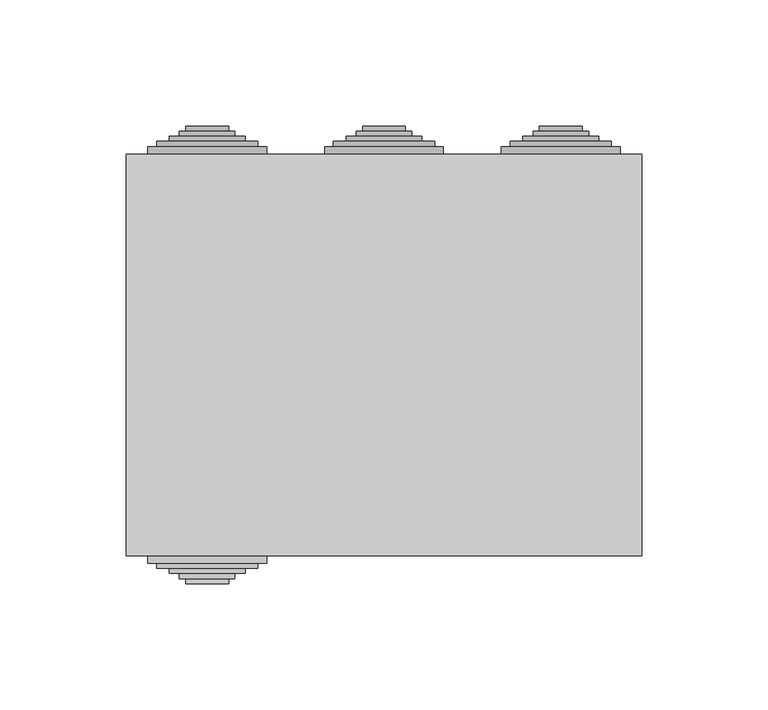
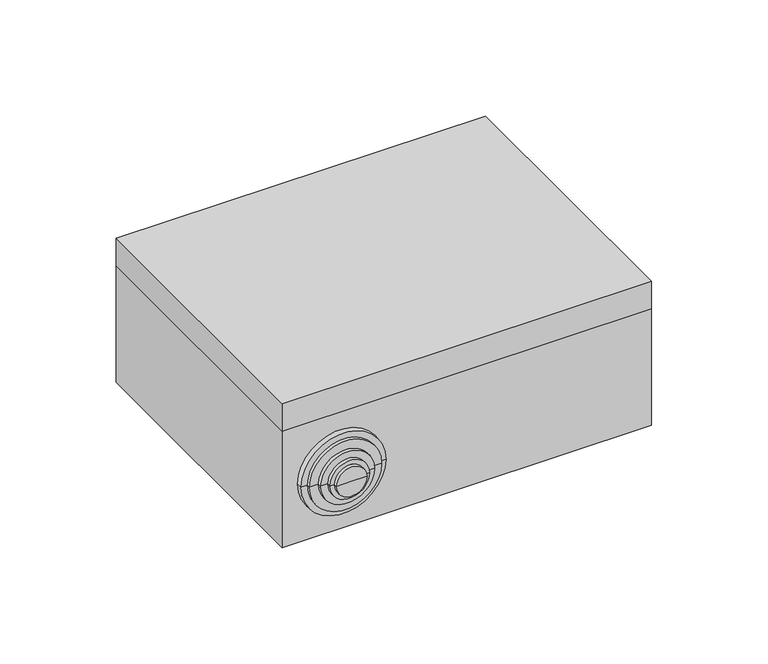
"""IFC4 building model written with IfcOpenShell, lengths in millimetres: cable carrier fitting geometry, КНС_КоробкаОтветвительнаяСКабельнымиВводами_10_IP55_DKC : с 10 кабельными вводами д.32мм, IP55, 190х140х70мм."""

from ifc_helpers import new_model, si_unit, frame, origin, place, context, project, spatial, polyline, circle_curve, faceted_brep, source, transform, mapped, element, save
from ifc_brep_helpers import plane_surface, cylinder_surface, revolved_surface, advanced_brep


def cable_carrier_fitting_7af15bab(model_context):
    return source(origin(), model_context, "Body", "SolidModel", [
        advanced_brep(
        [(-50.0, -77.5, 34.0), (-90.0, -77.5, 34.0), (-93.5, -77.5, 34.0), (-46.5, -77.5, 34.0), (-50.0, -79.5, 34.0), (-90.0, -79.5, 34.0), (-46.5, -79.5, 34.0), (-93.5, -79.5, 34.0), (-46.5, -82.5, 34.0), (-93.5, -82.5, 34.0), (-50.0, -82.5, 34.0), (-90.0, -82.5, 34.0), (-50.0, -84.5, 34.0), (-90.0, -84.5, 34.0), (-55.0, -84.5, 34.0), (-85.0, -84.5, 34.0), (-55.0, -86.5, 34.0), (-85.0, -86.5, 34.0), (-59.0, -86.5, 34.0), (-81.0, -86.5, 34.0), (-59.0, -88.5, 34.0), (-81.0, -88.5, 34.0), (-61.5, -88.5, 34.0), (-78.5, -88.5, 34.0), (-61.5, -90.5, 34.0), (-78.5, -90.5, 34.0), (-70.0, -90.5, 34.0), (-50.0, -70.5, 34.0), (-90.0, -70.5, 34.0), (-70.0, -70.5, 34.0), (-46.5, -75.2491137, 34.0), (-93.5, -75.2491137, 34.0)],
        [
            (0, 1, circle_curve(frame((-70.0, -77.5, 34.0), z_axis=(0.0, 1.0, 0.0), x_axis=(-1.0000000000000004, 0.0, 0.0)), 20.0)),
            (1, 2),
            (2, 3, circle_curve(frame((-70.0, -77.5, 34.0), z_axis=(0.0, -1.0, 0.0), x_axis=(-1.0000000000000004, 0.0, 0.0)), 23.5)),
            (3, 0),
            (1, 0, circle_curve(frame((-70.0, -77.5, 34.0), z_axis=(0.0, 1.0, 0.0), x_axis=(-1.0000000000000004, 0.0, 0.0)), 20.0)),
            (3, 2, circle_curve(frame((-70.0, -77.5, 34.0), z_axis=(0.0, -1.0, 0.0), x_axis=(-1.0000000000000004, 0.0, 0.0)), 23.5)),
            (4, 5, circle_curve(frame((-70.0, -79.5, 34.0), z_axis=(0.0, 1.0, 0.0), x_axis=(-1.0000000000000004, 0.0, 0.0)), 20.0)),
            (5, 1),
            (0, 4),
            (5, 4, circle_curve(frame((-70.0, -79.5, 34.0), z_axis=(0.0, 1.0, 0.0), x_axis=(-1.0000000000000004, 0.0, 0.0)), 20.0)),
            (6, 7, circle_curve(frame((-70.0, -79.5, 34.0), z_axis=(0.0, 1.0, 0.0), x_axis=(-1.0000000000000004, 0.0, 0.0)), 23.5)),
            (7, 5),
            (4, 6),
            (7, 6, circle_curve(frame((-70.0, -79.5, 34.0), z_axis=(0.0, 1.0, 0.0), x_axis=(-1.0000000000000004, 0.0, 0.0)), 23.5)),
            (8, 9, circle_curve(frame((-70.0, -82.5, 34.0), z_axis=(0.0, 1.0, 0.0), x_axis=(-1.0000000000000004, 0.0, 0.0)), 23.5)),
            (9, 7),
            (6, 8),
            (9, 8, circle_curve(frame((-70.0, -82.5, 34.0), z_axis=(0.0, 1.0, 0.0), x_axis=(-1.0000000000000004, 0.0, 0.0)), 23.5)),
            (10, 11, circle_curve(frame((-70.0, -82.5, 34.0), z_axis=(0.0, 1.0, 0.0), x_axis=(-1.0000000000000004, 0.0, 0.0)), 20.0)),
            (11, 9),
            (8, 10),
            (11, 10, circle_curve(frame((-70.0, -82.5, 34.0), z_axis=(0.0, 1.0, 0.0), x_axis=(-1.0000000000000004, 0.0, 0.0)), 20.0)),
            (12, 13, circle_curve(frame((-70.0, -84.5, 34.0), z_axis=(0.0, 1.0, 0.0), x_axis=(-1.0000000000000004, 0.0, 0.0)), 20.0)),
            (13, 11),
            (10, 12),
            (13, 12, circle_curve(frame((-70.0, -84.5, 34.0), z_axis=(0.0, 1.0, 0.0), x_axis=(-1.0000000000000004, 0.0, 0.0)), 20.0)),
            (14, 15, circle_curve(frame((-70.0, -84.5, 34.0), z_axis=(0.0, 1.0, 0.0), x_axis=(-1.0000000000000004, 0.0, 0.0)), 15.0)),
            (15, 13),
            (12, 14),
            (15, 14, circle_curve(frame((-70.0, -84.5, 34.0), z_axis=(0.0, 1.0, 0.0), x_axis=(-1.0000000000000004, 0.0, 0.0)), 15.0)),
            (16, 17, circle_curve(frame((-70.0, -86.5, 34.0), z_axis=(0.0, 1.0, 0.0), x_axis=(-1.0000000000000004, 0.0, 0.0)), 15.0)),
            (17, 15),
            (14, 16),
            (17, 16, circle_curve(frame((-70.0, -86.5, 34.0), z_axis=(0.0, 1.0, 0.0), x_axis=(-1.0000000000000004, 0.0, 0.0)), 15.0)),
            (18, 19, circle_curve(frame((-70.0, -86.5, 34.0), z_axis=(0.0, 1.0, 0.0), x_axis=(-1.0000000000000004, 0.0, 0.0)), 11.0)),
            (19, 17),
            (16, 18),
            (19, 18, circle_curve(frame((-70.0, -86.5, 34.0), z_axis=(0.0, 1.0, 0.0), x_axis=(-1.0000000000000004, 0.0, 0.0)), 11.0)),
            (20, 21, circle_curve(frame((-70.0, -88.5, 34.0), z_axis=(0.0, 1.0, 0.0), x_axis=(-1.0000000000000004, 0.0, 0.0)), 11.0)),
            (21, 19),
            (18, 20),
            (21, 20, circle_curve(frame((-70.0, -88.5, 34.0), z_axis=(0.0, 1.0, 0.0), x_axis=(-1.0000000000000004, 0.0, 0.0)), 11.0)),
            (22, 23, circle_curve(frame((-70.0, -88.5, 34.0), z_axis=(0.0, 1.0, 0.0), x_axis=(-1.0000000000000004, 0.0, 0.0)), 8.5)),
            (23, 21),
            (20, 22),
            (23, 22, circle_curve(frame((-70.0, -88.5, 34.0), z_axis=(0.0, 1.0, 0.0), x_axis=(-1.0000000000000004, 0.0, 0.0)), 8.5)),
            (24, 25, circle_curve(frame((-70.0, -90.5, 34.0), z_axis=(0.0, 1.0, 0.0), x_axis=(-1.0000000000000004, 0.0, 0.0)), 8.5)),
            (25, 23),
            (22, 24),
            (25, 24, circle_curve(frame((-70.0, -90.5, 34.0), z_axis=(0.0, 1.0, 0.0), x_axis=(-1.0000000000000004, 0.0, 0.0)), 8.5)),
            (26, 25),
            (24, 26),
            (27, 28, circle_curve(frame((-70.0, -70.5, 34.0), z_axis=(0.0, 1.0, 0.0), x_axis=(-1.0000000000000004, 0.0, 0.0)), 20.0)),
            (28, 29),
            (29, 27),
            (28, 27, circle_curve(frame((-70.0, -70.5, 34.0), z_axis=(0.0, 1.0, 0.0), x_axis=(-1.0000000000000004, 0.0, 0.0)), 20.0)),
            (30, 31, circle_curve(frame((-70.0, -75.2491137, 34.0), z_axis=(0.0, 1.0, 0.0), x_axis=(-1.0000000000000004, 0.0, 0.0)), 23.5)),
            (31, 28),
            (27, 30),
            (31, 30, circle_curve(frame((-70.0, -75.2491137, 34.0), z_axis=(0.0, 1.0, 0.0), x_axis=(-1.0000000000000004, 0.0, 0.0)), 23.5)),
            (2, 31),
            (30, 3),
        ],
        [
            plane_surface(frame((-70.0, -77.5, 34.0), z_axis=(0.0, -1.0, 0.0), x_axis=(-1.0, 0.0, 0.0))),
            cylinder_surface(frame((-70.0, 1435.5, 34.0), z_axis=(0.0, -1.0000000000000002, 0.0), x_axis=(-1.0000000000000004, 0.0, 0.0)), 20.0),
            plane_surface(frame((-70.0, -79.5, 34.0), z_axis=(0.0, 1.0, 0.0), x_axis=(-1.0, 0.0, 0.0))),
            cylinder_surface(frame((-70.0, 1435.5, 34.0), z_axis=(0.0, -1.0000000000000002, 0.0), x_axis=(-1.0000000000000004, 0.0, 0.0)), 23.5),
            plane_surface(frame((-70.0, -82.5, 34.0), z_axis=(0.0, -1.0, 0.0), x_axis=(-1.0, 0.0, 0.0))),
            plane_surface(frame((-70.0, -84.5, 34.0), z_axis=(0.0, -1.0, 0.0), x_axis=(-1.0, 0.0, 0.0))),
            cylinder_surface(frame((-70.0, 1435.5, 34.0), z_axis=(0.0, -1.0000000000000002, 0.0), x_axis=(-1.0000000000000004, 0.0, 0.0)), 15.0),
            plane_surface(frame((-70.0, -86.5, 34.0), z_axis=(0.0, -1.0, 0.0), x_axis=(-1.0, 0.0, 0.0))),
            cylinder_surface(frame((-70.0, 1435.5, 34.0), z_axis=(0.0, -1.0000000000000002, 0.0), x_axis=(-1.0000000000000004, 0.0, 0.0)), 11.0),
            plane_surface(frame((-70.0, -88.5, 34.0), z_axis=(0.0, -1.0, 0.0), x_axis=(-1.0, 0.0, 0.0))),
            cylinder_surface(frame((-70.0, 1435.5, 34.0), z_axis=(0.0, -1.0000000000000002, 0.0), x_axis=(-1.0000000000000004, 0.0, 0.0)), 8.5),
            plane_surface(frame((-70.0, -90.5, 34.0), z_axis=(0.0, -1.0, 0.0), x_axis=(-1.0, 0.0, 0.0))),
            plane_surface(frame((-70.0, -70.5, 34.0), z_axis=(0.0, 1.0, 0.0), x_axis=(-1.0, 0.0, 0.0))),
            revolved_surface(polyline([(-90.0, -70.5, 34.0), (-93.5, -75.2491137, 34.0)]), (-70.0, 1435.5, 34.0), (0.0, -1.0000000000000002, 0.0)),
        ],
        [
            (0, [[1, 2, 3, 4]]),
            (0, [[5, -4, 6, -2]]),
            (1, [[7, 8, -1, 9]]),
            (1, [[10, -9, -5, -8]]),
            (2, [[11, 12, -7, 13]]),
            (2, [[14, -13, -10, -12]]),
            (3, [[15, 16, -11, 17]]),
            (3, [[18, -17, -14, -16]]),
            (4, [[19, 20, -15, 21]]),
            (4, [[22, -21, -18, -20]]),
            (1, [[23, 24, -19, 25]]),
            (1, [[26, -25, -22, -24]]),
            (5, [[27, 28, -23, 29]]),
            (5, [[30, -29, -26, -28]]),
            (6, [[31, 32, -27, 33]]),
            (6, [[34, -33, -30, -32]]),
            (7, [[35, 36, -31, 37]]),
            (7, [[38, -37, -34, -36]]),
            (8, [[39, 40, -35, 41]]),
            (8, [[42, -41, -38, -40]]),
            (9, [[43, 44, -39, 45]]),
            (9, [[46, -45, -42, -44]]),
            (10, [[47, 48, -43, 49]]),
            (10, [[50, -49, -46, -48]]),
            (11, [[51, -47, 52]]),
            (11, [[-52, -50, -51]]),
            (12, [[53, 54, 55]]),
            (12, [[56, -55, -54]]),
            (13, [[57, 58, -53, 59]]),
            (13, [[60, -59, -56, -58]]),
            (3, [[-3, 61, -57, 62]]),
            (3, [[-6, -62, -60, -61]]),
        ],
    ),
        advanced_brep(
        [(50.0, 77.5, 34.0), (90.0, 77.5, 34.0), (93.5, 77.5, 34.0), (46.5, 77.5, 34.0), (50.0, 79.5, 34.0), (90.0, 79.5, 34.0), (46.5, 79.5, 34.0), (93.5, 79.5, 34.0), (46.5, 82.5, 34.0), (93.5, 82.5, 34.0), (50.0, 82.5, 34.0), (90.0, 82.5, 34.0), (50.0, 84.5, 34.0), (90.0, 84.5, 34.0), (55.0, 84.5, 34.0), (85.0, 84.5, 34.0), (55.0, 86.5, 34.0), (85.0, 86.5, 34.0), (59.0, 86.5, 34.0), (81.0, 86.5, 34.0), (59.0, 88.5, 34.0), (81.0, 88.5, 34.0), (61.5, 88.5, 34.0), (78.5, 88.5, 34.0), (61.5, 90.5, 34.0), (78.5, 90.5, 34.0), (70.0, 90.5, 34.0), (50.0, 70.5, 34.0), (90.0, 70.5, 34.0), (70.0, 70.5, 34.0), (46.5, 75.2491137, 34.0), (93.5, 75.2491137, 34.0)],
        [
            (0, 1, circle_curve(frame((70.0, 77.5, 34.0), z_axis=(0.0, -1.0, 0.0), x_axis=(1.0, 0.0, 0.0)), 20.0)),
            (1, 2),
            (2, 3, circle_curve(frame((70.0, 77.5, 34.0), z_axis=(0.0, 1.0, 0.0), x_axis=(1.0, 0.0, 0.0)), 23.5)),
            (3, 0),
            (1, 0, circle_curve(frame((70.0, 77.5, 34.0), z_axis=(0.0, -1.0, 0.0), x_axis=(1.0, 0.0, 0.0)), 20.0)),
            (3, 2, circle_curve(frame((70.0, 77.5, 34.0), z_axis=(0.0, 1.0, 0.0), x_axis=(1.0, 0.0, 0.0)), 23.5)),
            (4, 5, circle_curve(frame((70.0, 79.5, 34.0), z_axis=(0.0, -1.0, 0.0), x_axis=(1.0, 0.0, 0.0)), 20.0)),
            (5, 1),
            (0, 4),
            (5, 4, circle_curve(frame((70.0, 79.5, 34.0), z_axis=(0.0, -1.0, 0.0), x_axis=(1.0, 0.0, 0.0)), 20.0)),
            (6, 7, circle_curve(frame((70.0, 79.5, 34.0), z_axis=(0.0, -1.0, 0.0), x_axis=(1.0, 0.0, 0.0)), 23.5)),
            (7, 5),
            (4, 6),
            (7, 6, circle_curve(frame((70.0, 79.5, 34.0), z_axis=(0.0, -1.0, 0.0), x_axis=(1.0, 0.0, 0.0)), 23.5)),
            (8, 9, circle_curve(frame((70.0, 82.5, 34.0), z_axis=(0.0, -1.0, 0.0), x_axis=(1.0, 0.0, 0.0)), 23.5)),
            (9, 7),
            (6, 8),
            (9, 8, circle_curve(frame((70.0, 82.5, 34.0), z_axis=(0.0, -1.0, 0.0), x_axis=(1.0, 0.0, 0.0)), 23.5)),
            (10, 11, circle_curve(frame((70.0, 82.5, 34.0), z_axis=(0.0, -1.0, 0.0), x_axis=(1.0, 0.0, 0.0)), 20.0)),
            (11, 9),
            (8, 10),
            (11, 10, circle_curve(frame((70.0, 82.5, 34.0), z_axis=(0.0, -1.0, 0.0), x_axis=(1.0, 0.0, 0.0)), 20.0)),
            (12, 13, circle_curve(frame((70.0, 84.5, 34.0), z_axis=(0.0, -1.0, 0.0), x_axis=(1.0, 0.0, 0.0)), 20.0)),
            (13, 11),
            (10, 12),
            (13, 12, circle_curve(frame((70.0, 84.5, 34.0), z_axis=(0.0, -1.0, 0.0), x_axis=(1.0, 0.0, 0.0)), 20.0)),
            (14, 15, circle_curve(frame((70.0, 84.5, 34.0), z_axis=(0.0, -1.0, 0.0), x_axis=(1.0, 0.0, 0.0)), 15.0)),
            (15, 13),
            (12, 14),
            (15, 14, circle_curve(frame((70.0, 84.5, 34.0), z_axis=(0.0, -1.0, 0.0), x_axis=(1.0, 0.0, 0.0)), 15.0)),
            (16, 17, circle_curve(frame((70.0, 86.5, 34.0), z_axis=(0.0, -1.0, 0.0), x_axis=(1.0, 0.0, 0.0)), 15.0)),
            (17, 15),
            (14, 16),
            (17, 16, circle_curve(frame((70.0, 86.5, 34.0), z_axis=(0.0, -1.0, 0.0), x_axis=(1.0, 0.0, 0.0)), 15.0)),
            (18, 19, circle_curve(frame((70.0, 86.5, 34.0), z_axis=(0.0, -1.0, 0.0), x_axis=(1.0, 0.0, 0.0)), 11.0)),
            (19, 17),
            (16, 18),
            (19, 18, circle_curve(frame((70.0, 86.5, 34.0), z_axis=(0.0, -1.0, 0.0), x_axis=(1.0, 0.0, 0.0)), 11.0)),
            (20, 21, circle_curve(frame((70.0, 88.5, 34.0), z_axis=(0.0, -1.0, 0.0), x_axis=(1.0, 0.0, 0.0)), 11.0)),
            (21, 19),
            (18, 20),
            (21, 20, circle_curve(frame((70.0, 88.5, 34.0), z_axis=(0.0, -1.0, 0.0), x_axis=(1.0, 0.0, 0.0)), 11.0)),
            (22, 23, circle_curve(frame((70.0, 88.5, 34.0), z_axis=(0.0, -1.0, 0.0), x_axis=(1.0, 0.0, 0.0)), 8.5)),
            (23, 21),
            (20, 22),
            (23, 22, circle_curve(frame((70.0, 88.5, 34.0), z_axis=(0.0, -1.0, 0.0), x_axis=(1.0, 0.0, 0.0)), 8.5)),
            (24, 25, circle_curve(frame((70.0, 90.5, 34.0), z_axis=(0.0, -1.0, 0.0), x_axis=(1.0, 0.0, 0.0)), 8.5)),
            (25, 23),
            (22, 24),
            (25, 24, circle_curve(frame((70.0, 90.5, 34.0), z_axis=(0.0, -1.0, 0.0), x_axis=(1.0, 0.0, 0.0)), 8.5)),
            (26, 25),
            (24, 26),
            (27, 28, circle_curve(frame((70.0, 70.5, 34.0), z_axis=(0.0, -1.0, 0.0), x_axis=(1.0, 0.0, 0.0)), 20.0)),
            (28, 29),
            (29, 27),
            (28, 27, circle_curve(frame((70.0, 70.5, 34.0), z_axis=(0.0, -1.0, 0.0), x_axis=(1.0, 0.0, 0.0)), 20.0)),
            (30, 31, circle_curve(frame((70.0, 75.2491137, 34.0), z_axis=(0.0, -1.0, 0.0), x_axis=(1.0, 0.0, 0.0)), 23.5)),
            (31, 28),
            (27, 30),
            (31, 30, circle_curve(frame((70.0, 75.2491137, 34.0), z_axis=(0.0, -1.0, 0.0), x_axis=(1.0, 0.0, 0.0)), 23.5)),
            (2, 31),
            (30, 3),
        ],
        [
            plane_surface(frame((70.0, 77.5, 34.0), z_axis=(0.0, 1.0, 0.0), x_axis=(1.0, 0.0, 0.0))),
            cylinder_surface(frame((70.0, -1435.5, 34.0), z_axis=(0.0, 1.0, 0.0), x_axis=(1.0, 0.0, 0.0)), 20.0),
            plane_surface(frame((70.0, 79.5, 34.0), z_axis=(0.0, -1.0, 0.0), x_axis=(1.0, 0.0, 0.0))),
            cylinder_surface(frame((70.0, -1435.5, 34.0), z_axis=(0.0, 1.0, 0.0), x_axis=(1.0, 0.0, 0.0)), 23.5),
            plane_surface(frame((70.0, 82.5, 34.0), z_axis=(0.0, 1.0, 0.0), x_axis=(1.0, 0.0, 0.0))),
            plane_surface(frame((70.0, 84.5, 34.0), z_axis=(0.0, 1.0, 0.0), x_axis=(1.0, 0.0, 0.0))),
            cylinder_surface(frame((70.0, -1435.5, 34.0), z_axis=(0.0, 1.0, 0.0), x_axis=(1.0, 0.0, 0.0)), 15.0),
            plane_surface(frame((70.0, 86.5, 34.0), z_axis=(0.0, 1.0, 0.0), x_axis=(1.0, 0.0, 0.0))),
            cylinder_surface(frame((70.0, -1435.5, 34.0), z_axis=(0.0, 1.0, 0.0), x_axis=(1.0, 0.0, 0.0)), 11.0),
            plane_surface(frame((70.0, 88.5, 34.0), z_axis=(0.0, 1.0, 0.0), x_axis=(1.0, 0.0, 0.0))),
            cylinder_surface(frame((70.0, -1435.5, 34.0), z_axis=(0.0, 1.0, 0.0), x_axis=(1.0, 0.0, 0.0)), 8.5),
            plane_surface(frame((70.0, 90.5, 34.0), z_axis=(0.0, 1.0, 0.0), x_axis=(1.0, 0.0, 0.0))),
            plane_surface(frame((70.0, 70.5, 34.0), z_axis=(0.0, -1.0, 0.0), x_axis=(1.0, 0.0, 0.0))),
            revolved_surface(polyline([(90.0, 70.5, 34.0), (93.5, 75.2491137, 34.0)]), (70.0, -1435.5, 34.0), (0.0, 1.0, 0.0)),
        ],
        [
            (0, [[1, 2, 3, 4]]),
            (0, [[5, -4, 6, -2]]),
            (1, [[7, 8, -1, 9]]),
            (1, [[10, -9, -5, -8]]),
            (2, [[11, 12, -7, 13]]),
            (2, [[14, -13, -10, -12]]),
            (3, [[15, 16, -11, 17]]),
            (3, [[18, -17, -14, -16]]),
            (4, [[19, 20, -15, 21]]),
            (4, [[22, -21, -18, -20]]),
            (1, [[23, 24, -19, 25]]),
            (1, [[26, -25, -22, -24]]),
            (5, [[27, 28, -23, 29]]),
            (5, [[30, -29, -26, -28]]),
            (6, [[31, 32, -27, 33]]),
            (6, [[34, -33, -30, -32]]),
            (7, [[35, 36, -31, 37]]),
            (7, [[38, -37, -34, -36]]),
            (8, [[39, 40, -35, 41]]),
            (8, [[42, -41, -38, -40]]),
            (9, [[43, 44, -39, 45]]),
            (9, [[46, -45, -42, -44]]),
            (10, [[47, 48, -43, 49]]),
            (10, [[50, -49, -46, -48]]),
            (11, [[51, -47, 52]]),
            (11, [[-52, -50, -51]]),
            (12, [[53, 54, 55]]),
            (12, [[56, -55, -54]]),
            (13, [[57, 58, -53, 59]]),
            (13, [[60, -59, -56, -58]]),
            (3, [[-3, 61, -57, 62]]),
            (3, [[-6, -62, -60, -61]]),
        ],
    ),
        advanced_brep(
        [(-20.0, 77.5, 34.0), (20.0, 77.5, 34.0), (23.5, 77.5, 34.0), (-23.5, 77.5, 34.0), (-20.0, 79.5, 34.0), (20.0, 79.5, 34.0), (-23.5, 79.5, 34.0), (23.5, 79.5, 34.0), (-23.5, 82.5, 34.0), (23.5, 82.5, 34.0), (-20.0, 82.5, 34.0), (20.0, 82.5, 34.0), (-20.0, 84.5, 34.0), (20.0, 84.5, 34.0), (-15.0, 84.5, 34.0), (15.0, 84.5, 34.0), (-15.0, 86.5, 34.0), (15.0, 86.5, 34.0), (-11.0, 86.5, 34.0), (11.0, 86.5, 34.0), (-11.0, 88.5, 34.0), (11.0, 88.5, 34.0), (-8.5, 88.5, 34.0), (8.5, 88.5, 34.0), (-8.5, 90.5, 34.0), (8.5, 90.5, 34.0), (0.0, 90.5, 34.0), (-20.0, 70.5, 34.0), (20.0, 70.5, 34.0), (0.0, 70.5, 34.0), (-23.5, 75.2491137, 34.0), (23.5, 75.2491137, 34.0)],
        [
            (0, 1, circle_curve(frame((0.0, 77.5, 34.0), z_axis=(0.0, -1.0, 0.0), x_axis=(1.0, 0.0, 0.0)), 20.0)),
            (1, 2),
            (2, 3, circle_curve(frame((0.0, 77.5, 34.0), z_axis=(0.0, 1.0, 0.0), x_axis=(1.0, 0.0, 0.0)), 23.5)),
            (3, 0),
            (1, 0, circle_curve(frame((0.0, 77.5, 34.0), z_axis=(0.0, -1.0, 0.0), x_axis=(1.0, 0.0, 0.0)), 20.0)),
            (3, 2, circle_curve(frame((0.0, 77.5, 34.0), z_axis=(0.0, 1.0, 0.0), x_axis=(1.0, 0.0, 0.0)), 23.5)),
            (4, 5, circle_curve(frame((0.0, 79.5, 34.0), z_axis=(0.0, -1.0, 0.0), x_axis=(1.0, 0.0, 0.0)), 20.0)),
            (5, 1),
            (0, 4),
            (5, 4, circle_curve(frame((0.0, 79.5, 34.0), z_axis=(0.0, -1.0, 0.0), x_axis=(1.0, 0.0, 0.0)), 20.0)),
            (6, 7, circle_curve(frame((0.0, 79.5, 34.0), z_axis=(0.0, -1.0, 0.0), x_axis=(1.0, 0.0, 0.0)), 23.5)),
            (7, 5),
            (4, 6),
            (7, 6, circle_curve(frame((0.0, 79.5, 34.0), z_axis=(0.0, -1.0, 0.0), x_axis=(1.0, 0.0, 0.0)), 23.5)),
            (8, 9, circle_curve(frame((0.0, 82.5, 34.0), z_axis=(0.0, -1.0, 0.0), x_axis=(1.0, 0.0, 0.0)), 23.5)),
            (9, 7),
            (6, 8),
            (9, 8, circle_curve(frame((0.0, 82.5, 34.0), z_axis=(0.0, -1.0, 0.0), x_axis=(1.0, 0.0, 0.0)), 23.5)),
            (10, 11, circle_curve(frame((0.0, 82.5, 34.0), z_axis=(0.0, -1.0, 0.0), x_axis=(1.0, 0.0, 0.0)), 20.0)),
            (11, 9),
            (8, 10),
            (11, 10, circle_curve(frame((0.0, 82.5, 34.0), z_axis=(0.0, -1.0, 0.0), x_axis=(1.0, 0.0, 0.0)), 20.0)),
            (12, 13, circle_curve(frame((0.0, 84.5, 34.0), z_axis=(0.0, -1.0, 0.0), x_axis=(1.0, 0.0, 0.0)), 20.0)),
            (13, 11),
            (10, 12),
            (13, 12, circle_curve(frame((0.0, 84.5, 34.0), z_axis=(0.0, -1.0, 0.0), x_axis=(1.0, 0.0, 0.0)), 20.0)),
            (14, 15, circle_curve(frame((0.0, 84.5, 34.0), z_axis=(0.0, -1.0, 0.0), x_axis=(1.0, 0.0, 0.0)), 15.0)),
            (15, 13),
            (12, 14),
            (15, 14, circle_curve(frame((0.0, 84.5, 34.0), z_axis=(0.0, -1.0, 0.0), x_axis=(1.0, 0.0, 0.0)), 15.0)),
            (16, 17, circle_curve(frame((0.0, 86.5, 34.0), z_axis=(0.0, -1.0, 0.0), x_axis=(1.0, 0.0, 0.0)), 15.0)),
            (17, 15),
            (14, 16),
            (17, 16, circle_curve(frame((0.0, 86.5, 34.0), z_axis=(0.0, -1.0, 0.0), x_axis=(1.0, 0.0, 0.0)), 15.0)),
            (18, 19, circle_curve(frame((0.0, 86.5, 34.0), z_axis=(0.0, -1.0, 0.0), x_axis=(1.0, 0.0, 0.0)), 11.0)),
            (19, 17),
            (16, 18),
            (19, 18, circle_curve(frame((0.0, 86.5, 34.0), z_axis=(0.0, -1.0, 0.0), x_axis=(1.0, 0.0, 0.0)), 11.0)),
            (20, 21, circle_curve(frame((0.0, 88.5, 34.0), z_axis=(0.0, -1.0, 0.0), x_axis=(1.0, 0.0, 0.0)), 11.0)),
            (21, 19),
            (18, 20),
            (21, 20, circle_curve(frame((0.0, 88.5, 34.0), z_axis=(0.0, -1.0, 0.0), x_axis=(1.0, 0.0, 0.0)), 11.0)),
            (22, 23, circle_curve(frame((0.0, 88.5, 34.0), z_axis=(0.0, -1.0, 0.0), x_axis=(1.0, 0.0, 0.0)), 8.5)),
            (23, 21),
            (20, 22),
            (23, 22, circle_curve(frame((0.0, 88.5, 34.0), z_axis=(0.0, -1.0, 0.0), x_axis=(1.0, 0.0, 0.0)), 8.5)),
            (24, 25, circle_curve(frame((0.0, 90.5, 34.0), z_axis=(0.0, -1.0, 0.0), x_axis=(1.0, 0.0, 0.0)), 8.5)),
            (25, 23),
            (22, 24),
            (25, 24, circle_curve(frame((0.0, 90.5, 34.0), z_axis=(0.0, -1.0, 0.0), x_axis=(1.0, 0.0, 0.0)), 8.5)),
            (26, 25),
            (24, 26),
            (27, 28, circle_curve(frame((0.0, 70.5, 34.0), z_axis=(0.0, -1.0, 0.0), x_axis=(1.0, 0.0, 0.0)), 20.0)),
            (28, 29),
            (29, 27),
            (28, 27, circle_curve(frame((0.0, 70.5, 34.0), z_axis=(0.0, -1.0, 0.0), x_axis=(1.0, 0.0, 0.0)), 20.0)),
            (30, 31, circle_curve(frame((0.0, 75.2491137, 34.0), z_axis=(0.0, -1.0, 0.0), x_axis=(1.0, 0.0, 0.0)), 23.5)),
            (31, 28),
            (27, 30),
            (31, 30, circle_curve(frame((0.0, 75.2491137, 34.0), z_axis=(0.0, -1.0, 0.0), x_axis=(1.0, 0.0, 0.0)), 23.5)),
            (2, 31),
            (30, 3),
        ],
        [
            plane_surface(frame((0.0, 77.5, 34.0), z_axis=(0.0, 1.0, 0.0), x_axis=(1.0, 0.0, 0.0))),
            cylinder_surface(frame((0.0, -1435.5, 34.0), z_axis=(0.0, 1.0, 0.0), x_axis=(1.0, 0.0, 0.0)), 20.0),
            plane_surface(frame((0.0, 79.5, 34.0), z_axis=(0.0, -1.0, 0.0), x_axis=(1.0, 0.0, 0.0))),
            cylinder_surface(frame((0.0, -1435.5, 34.0), z_axis=(0.0, 1.0, 0.0), x_axis=(1.0, 0.0, 0.0)), 23.5),
            plane_surface(frame((0.0, 82.5, 34.0), z_axis=(0.0, 1.0, 0.0), x_axis=(1.0, 0.0, 0.0))),
            plane_surface(frame((0.0, 84.5, 34.0), z_axis=(0.0, 1.0, 0.0), x_axis=(1.0, 0.0, 0.0))),
            cylinder_surface(frame((0.0, -1435.5, 34.0), z_axis=(0.0, 1.0, 0.0), x_axis=(1.0, 0.0, 0.0)), 15.0),
            plane_surface(frame((0.0, 86.5, 34.0), z_axis=(0.0, 1.0, 0.0), x_axis=(1.0, 0.0, 0.0))),
            cylinder_surface(frame((0.0, -1435.5, 34.0), z_axis=(0.0, 1.0, 0.0), x_axis=(1.0, 0.0, 0.0)), 11.0),
            plane_surface(frame((0.0, 88.5, 34.0), z_axis=(0.0, 1.0, 0.0), x_axis=(1.0, 0.0, 0.0))),
            cylinder_surface(frame((0.0, -1435.5, 34.0), z_axis=(0.0, 1.0, 0.0), x_axis=(1.0, 0.0, 0.0)), 8.5),
            plane_surface(frame((0.0, 90.5, 34.0), z_axis=(0.0, 1.0, 0.0), x_axis=(1.0, 0.0, 0.0))),
            plane_surface(frame((0.0, 70.5, 34.0), z_axis=(0.0, -1.0, 0.0), x_axis=(1.0, 0.0, 0.0))),
            revolved_surface(polyline([(20.0, 70.5, 34.0), (23.5, 75.2491137, 34.0)]), (0.0, -1435.5, 34.0), (0.0, 1.0, 0.0)),
        ],
        [
            (0, [[1, 2, 3, 4]]),
            (0, [[5, -4, 6, -2]]),
            (1, [[7, 8, -1, 9]]),
            (1, [[10, -9, -5, -8]]),
            (2, [[11, 12, -7, 13]]),
            (2, [[14, -13, -10, -12]]),
            (3, [[15, 16, -11, 17]]),
            (3, [[18, -17, -14, -16]]),
            (4, [[19, 20, -15, 21]]),
            (4, [[22, -21, -18, -20]]),
            (1, [[23, 24, -19, 25]]),
            (1, [[26, -25, -22, -24]]),
            (5, [[27, 28, -23, 29]]),
            (5, [[30, -29, -26, -28]]),
            (6, [[31, 32, -27, 33]]),
            (6, [[34, -33, -30, -32]]),
            (7, [[35, 36, -31, 37]]),
            (7, [[38, -37, -34, -36]]),
            (8, [[39, 40, -35, 41]]),
            (8, [[42, -41, -38, -40]]),
            (9, [[43, 44, -39, 45]]),
            (9, [[46, -45, -42, -44]]),
            (10, [[47, 48, -43, 49]]),
            (10, [[50, -49, -46, -48]]),
            (11, [[51, -47, 52]]),
            (11, [[-52, -50, -51]]),
            (12, [[53, 54, 55]]),
            (12, [[56, -55, -54]]),
            (13, [[57, 58, -53, 59]]),
            (13, [[60, -59, -56, -58]]),
            (3, [[-3, 61, -57, 62]]),
            (3, [[-6, -62, -60, -61]]),
        ],
    ),
        advanced_brep(
        [(-90.0, 77.5, 34.0), (-50.0, 77.5, 34.0), (-46.5, 77.5, 34.0), (-93.5, 77.5, 34.0), (-90.0, 79.5, 34.0), (-50.0, 79.5, 34.0), (-93.5, 79.5, 34.0), (-46.5, 79.5, 34.0), (-93.5, 82.5, 34.0), (-46.5, 82.5, 34.0), (-90.0, 82.5, 34.0), (-50.0, 82.5, 34.0), (-90.0, 84.5, 34.0), (-50.0, 84.5, 34.0), (-85.0, 84.5, 34.0), (-55.0, 84.5, 34.0), (-85.0, 86.5, 34.0), (-55.0, 86.5, 34.0), (-81.0, 86.5, 34.0), (-59.0, 86.5, 34.0), (-81.0, 88.5, 34.0), (-59.0, 88.5, 34.0), (-78.5, 88.5, 34.0), (-61.5, 88.5, 34.0), (-78.5, 90.5, 34.0), (-61.5, 90.5, 34.0), (-70.0, 90.5, 34.0), (-90.0, 70.5, 34.0), (-50.0, 70.5, 34.0), (-70.0, 70.5, 34.0), (-93.5, 75.2491137, 34.0), (-46.5, 75.2491137, 34.0)],
        [
            (0, 1, circle_curve(frame((-70.0, 77.5, 34.0), z_axis=(0.0, -1.0, 0.0), x_axis=(1.0000000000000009, 0.0, 0.0)), 20.0)),
            (1, 2),
            (2, 3, circle_curve(frame((-70.0, 77.5, 34.0), z_axis=(0.0, 1.0, 0.0), x_axis=(1.0000000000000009, 0.0, 0.0)), 23.5)),
            (3, 0),
            (1, 0, circle_curve(frame((-70.0, 77.5, 34.0), z_axis=(0.0, -1.0, 0.0), x_axis=(1.0000000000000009, 0.0, 0.0)), 20.0)),
            (3, 2, circle_curve(frame((-70.0, 77.5, 34.0), z_axis=(0.0, 1.0, 0.0), x_axis=(1.0000000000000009, 0.0, 0.0)), 23.5)),
            (4, 5, circle_curve(frame((-70.0, 79.5, 34.0), z_axis=(0.0, -1.0, 0.0), x_axis=(1.0000000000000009, 0.0, 0.0)), 20.0)),
            (5, 1),
            (0, 4),
            (5, 4, circle_curve(frame((-70.0, 79.5, 34.0), z_axis=(0.0, -1.0, 0.0), x_axis=(1.0000000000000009, 0.0, 0.0)), 20.0)),
            (6, 7, circle_curve(frame((-70.0, 79.5, 34.0), z_axis=(0.0, -1.0, 0.0), x_axis=(1.0000000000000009, 0.0, 0.0)), 23.5)),
            (7, 5),
            (4, 6),
            (7, 6, circle_curve(frame((-70.0, 79.5, 34.0), z_axis=(0.0, -1.0, 0.0), x_axis=(1.0000000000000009, 0.0, 0.0)), 23.5)),
            (8, 9, circle_curve(frame((-70.0, 82.5, 34.0), z_axis=(0.0, -1.0, 0.0), x_axis=(1.0000000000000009, 0.0, 0.0)), 23.5)),
            (9, 7),
            (6, 8),
            (9, 8, circle_curve(frame((-70.0, 82.5, 34.0), z_axis=(0.0, -1.0, 0.0), x_axis=(1.0000000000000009, 0.0, 0.0)), 23.5)),
            (10, 11, circle_curve(frame((-70.0, 82.5, 34.0), z_axis=(0.0, -1.0, 0.0), x_axis=(1.0000000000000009, 0.0, 0.0)), 20.0)),
            (11, 9),
            (8, 10),
            (11, 10, circle_curve(frame((-70.0, 82.5, 34.0), z_axis=(0.0, -1.0, 0.0), x_axis=(1.0000000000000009, 0.0, 0.0)), 20.0)),
            (12, 13, circle_curve(frame((-70.0, 84.5, 34.0), z_axis=(0.0, -1.0, 0.0), x_axis=(1.0000000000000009, 0.0, 0.0)), 20.0)),
            (13, 11),
            (10, 12),
            (13, 12, circle_curve(frame((-70.0, 84.5, 34.0), z_axis=(0.0, -1.0, 0.0), x_axis=(1.0000000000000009, 0.0, 0.0)), 20.0)),
            (14, 15, circle_curve(frame((-70.0, 84.5, 34.0), z_axis=(0.0, -1.0, 0.0), x_axis=(1.0000000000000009, 0.0, 0.0)), 15.0)),
            (15, 13),
            (12, 14),
            (15, 14, circle_curve(frame((-70.0, 84.5, 34.0), z_axis=(0.0, -1.0, 0.0), x_axis=(1.0000000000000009, 0.0, 0.0)), 15.0)),
            (16, 17, circle_curve(frame((-70.0, 86.5, 34.0), z_axis=(0.0, -1.0, 0.0), x_axis=(1.0000000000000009, 0.0, 0.0)), 15.0)),
            (17, 15),
            (14, 16),
            (17, 16, circle_curve(frame((-70.0, 86.5, 34.0), z_axis=(0.0, -1.0, 0.0), x_axis=(1.0000000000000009, 0.0, 0.0)), 15.0)),
            (18, 19, circle_curve(frame((-70.0, 86.5, 34.0), z_axis=(0.0, -1.0, 0.0), x_axis=(1.0000000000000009, 0.0, 0.0)), 11.0)),
            (19, 17),
            (16, 18),
            (19, 18, circle_curve(frame((-70.0, 86.5, 34.0), z_axis=(0.0, -1.0, 0.0), x_axis=(1.0000000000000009, 0.0, 0.0)), 11.0)),
            (20, 21, circle_curve(frame((-70.0, 88.5, 34.0), z_axis=(0.0, -1.0, 0.0), x_axis=(1.0000000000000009, 0.0, 0.0)), 11.0)),
            (21, 19),
            (18, 20),
            (21, 20, circle_curve(frame((-70.0, 88.5, 34.0), z_axis=(0.0, -1.0, 0.0), x_axis=(1.0000000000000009, 0.0, 0.0)), 11.0)),
            (22, 23, circle_curve(frame((-70.0, 88.5, 34.0), z_axis=(0.0, -1.0, 0.0), x_axis=(1.0000000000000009, 0.0, 0.0)), 8.5)),
            (23, 21),
            (20, 22),
            (23, 22, circle_curve(frame((-70.0, 88.5, 34.0), z_axis=(0.0, -1.0, 0.0), x_axis=(1.0000000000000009, 0.0, 0.0)), 8.5)),
            (24, 25, circle_curve(frame((-70.0, 90.5, 34.0), z_axis=(0.0, -1.0, 0.0), x_axis=(1.0000000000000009, 0.0, 0.0)), 8.5)),
            (25, 23),
            (22, 24),
            (25, 24, circle_curve(frame((-70.0, 90.5, 34.0), z_axis=(0.0, -1.0, 0.0), x_axis=(1.0000000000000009, 0.0, 0.0)), 8.5)),
            (26, 25),
            (24, 26),
            (27, 28, circle_curve(frame((-70.0, 70.5, 34.0), z_axis=(0.0, -1.0, 0.0), x_axis=(1.0000000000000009, 0.0, 0.0)), 20.0)),
            (28, 29),
            (29, 27),
            (28, 27, circle_curve(frame((-70.0, 70.5, 34.0), z_axis=(0.0, -1.0, 0.0), x_axis=(1.0000000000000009, 0.0, 0.0)), 20.0)),
            (30, 31, circle_curve(frame((-70.0, 75.2491137, 34.0), z_axis=(0.0, -1.0, 0.0), x_axis=(1.0000000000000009, 0.0, 0.0)), 23.5)),
            (31, 28),
            (27, 30),
            (31, 30, circle_curve(frame((-70.0, 75.2491137, 34.0), z_axis=(0.0, -1.0, 0.0), x_axis=(1.0000000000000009, 0.0, 0.0)), 23.5)),
            (2, 31),
            (30, 3),
        ],
        [
            plane_surface(frame((-70.0, 77.5, 34.0), z_axis=(0.0, 1.0, 0.0), x_axis=(1.0, 0.0, 0.0))),
            cylinder_surface(frame((-70.0, -1435.5, 34.0), z_axis=(0.0, 1.0000000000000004, 0.0), x_axis=(1.0000000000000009, 0.0, 0.0)), 20.0),
            plane_surface(frame((-70.0, 79.5, 34.0), z_axis=(0.0, -1.0, 0.0), x_axis=(1.0, 0.0, 0.0))),
            cylinder_surface(frame((-70.0, -1435.5, 34.0), z_axis=(0.0, 1.0000000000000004, 0.0), x_axis=(1.0000000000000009, 0.0, 0.0)), 23.5),
            plane_surface(frame((-70.0, 82.5, 34.0), z_axis=(0.0, 1.0, 0.0), x_axis=(1.0, 0.0, 0.0))),
            plane_surface(frame((-70.0, 84.5, 34.0), z_axis=(0.0, 1.0, 0.0), x_axis=(1.0, 0.0, 0.0))),
            cylinder_surface(frame((-70.0, -1435.5, 34.0), z_axis=(0.0, 1.0000000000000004, 0.0), x_axis=(1.0000000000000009, 0.0, 0.0)), 15.0),
            plane_surface(frame((-70.0, 86.5, 34.0), z_axis=(0.0, 1.0, 0.0), x_axis=(1.0, 0.0, 0.0))),
            cylinder_surface(frame((-70.0, -1435.5, 34.0), z_axis=(0.0, 1.0000000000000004, 0.0), x_axis=(1.0000000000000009, 0.0, 0.0)), 11.0),
            plane_surface(frame((-70.0, 88.5, 34.0), z_axis=(0.0, 1.0, 0.0), x_axis=(1.0, 0.0, 0.0))),
            cylinder_surface(frame((-70.0, -1435.5, 34.0), z_axis=(0.0, 1.0000000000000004, 0.0), x_axis=(1.0000000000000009, 0.0, 0.0)), 8.5),
            plane_surface(frame((-70.0, 90.5, 34.0), z_axis=(0.0, 1.0, 0.0), x_axis=(1.0, 0.0, 0.0))),
            plane_surface(frame((-70.0, 70.5, 34.0), z_axis=(0.0, -1.0, 0.0), x_axis=(1.0, 0.0, 0.0))),
            revolved_surface(polyline([(-50.0, 70.5, 34.0), (-46.5, 75.2491137, 34.0)]), (-70.0, -1435.5, 34.0), (0.0, 1.0000000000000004, 0.0)),
        ],
        [
            (0, [[1, 2, 3, 4]]),
            (0, [[5, -4, 6, -2]]),
            (1, [[7, 8, -1, 9]]),
            (1, [[10, -9, -5, -8]]),
            (2, [[11, 12, -7, 13]]),
            (2, [[14, -13, -10, -12]]),
            (3, [[15, 16, -11, 17]]),
            (3, [[18, -17, -14, -16]]),
            (4, [[19, 20, -15, 21]]),
            (4, [[22, -21, -18, -20]]),
            (1, [[23, 24, -19, 25]]),
            (1, [[26, -25, -22, -24]]),
            (5, [[27, 28, -23, 29]]),
            (5, [[30, -29, -26, -28]]),
            (6, [[31, 32, -27, 33]]),
            (6, [[34, -33, -30, -32]]),
            (7, [[35, 36, -31, 37]]),
            (7, [[38, -37, -34, -36]]),
            (8, [[39, 40, -35, 41]]),
            (8, [[42, -41, -38, -40]]),
            (9, [[43, 44, -39, 45]]),
            (9, [[46, -45, -42, -44]]),
            (10, [[47, 48, -43, 49]]),
            (10, [[50, -49, -46, -48]]),
            (11, [[51, -47, 52]]),
            (11, [[-52, -50, -51]]),
            (12, [[53, 54, 55]]),
            (12, [[56, -55, -54]]),
            (13, [[57, 58, -53, 59]]),
            (13, [[60, -59, -56, -58]]),
            (3, [[-3, 61, -57, 62]]),
            (3, [[-6, -62, -60, -61]]),
        ],
    ),
        faceted_brep([(102.0, 79.5, 84.0), (-102.0, 79.5, 84.0), (-102.0, -79.5, 84.0), (102.0, -79.5, 84.0), (-100.0, -77.5, 82.0), (-100.0, 77.5, 82.0), (100.0, 77.5, 82.0), (100.0, -77.5, 82.0), (102.0, 79.5, 68.0), (102.0, -79.5, 68.0), (-102.0, -79.5, 68.0), (-102.0, 79.5, 68.0), (-100.0, -77.5, 68.0), (100.0, -77.5, 68.0), (100.0, 77.5, 68.0), (-100.0, 77.5, 68.0)], [[[0, 1, 2, 3]], [[4, 5, 6, 7]], [[8, 9, 10, 11], [12, 13, 14, 15]], [[1, 0, 8, 11]], [[2, 1, 11, 10]], [[3, 2, 10, 9]], [[0, 3, 9, 8]], [[12, 15, 5, 4]], [[15, 14, 6, 5]], [[14, 13, 7, 6]], [[13, 12, 4, 7]]]),
        faceted_brep([(-100.0, -77.5, 2.0), (100.0, -77.5, 2.0), (100.0, 77.5, 2.0), (-100.0, 77.5, 2.0), (102.0, 79.5, 0.0), (102.0, -79.5, 0.0), (-102.0, -79.5, 0.0), (-102.0, 79.5, 0.0), (102.0, 79.5, 68.0), (-102.0, 79.5, 68.0), (-102.0, -79.5, 68.0), (102.0, -79.5, 68.0), (100.0, -77.5, 68.0), (-100.0, -77.5, 68.0), (-100.0, 77.5, 68.0), (100.0, 77.5, 68.0)], [[[0, 1, 2, 3]], [[4, 5, 6, 7]], [[8, 9, 10, 11], [12, 13, 14, 15]], [[9, 8, 4, 7]], [[10, 9, 7, 6]], [[11, 10, 6, 5]], [[8, 11, 5, 4]], [[13, 12, 1, 0]], [[14, 13, 0, 3]], [[15, 14, 3, 2]], [[12, 15, 2, 1]]]),
    ])


if __name__ == "__main__":
    model = new_model("IFC4")
    model_context = context("Model", 3, world=origin())
    ifc_project = project(units=[si_unit("LENGTHUNIT", "METRE", prefix="MILLI")], contexts=[model_context])
    site = spatial("IfcSite", under=ifc_project)
    building = spatial("IfcBuilding", under=site)
    placement = place(None, origin())
    cable_carrier_fitting_shape = cable_carrier_fitting_7af15bab(model_context)
    element("IfcCableCarrierFitting", 1, ObjectType="КНС_КоробкаОтветвительнаяСКабельнымиВводами_10_IP55_DKC : с 10 кабельными вводами д.32мм, IP55, 190х140х70мм", at=placement, inside=building, context=model_context, shape_type="MappedRepresentation", body=[
        mapped(cable_carrier_fitting_shape, transform((0.0, 0.0, 0.0), x_axis=(1.0, 0.0, 0.0), y_axis=(0.0, 1.0, 0.0), z_axis=(0.0, 0.0, 1.0))),
    ])
    save(model, "model.ifc")
